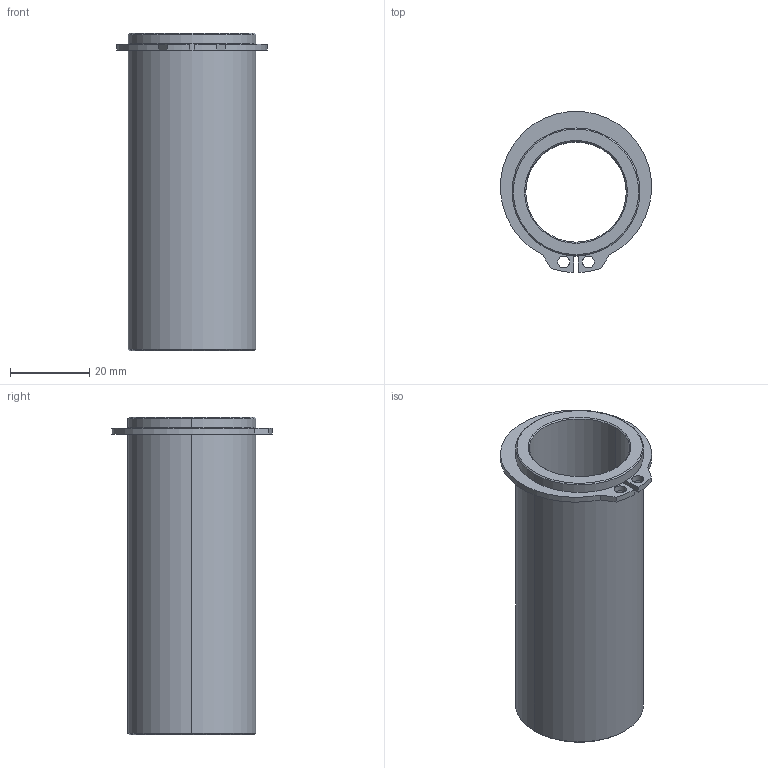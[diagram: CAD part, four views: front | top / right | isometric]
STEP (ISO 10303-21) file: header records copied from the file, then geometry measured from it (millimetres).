
FILE_DESCRIPTION((''),'2;1');
FILE_NAME('C13_025_080.stp','2008-12-17T15:02:02',(''),(''),'Mechanical Desktop 2009','Mechanical Desktop 2009',', , ');
FILE_SCHEMA(('CONFIG_CONTROL_DESIGN'));
Length unit declared in the file: millimetre
Products named in the file (2): Product; blmdl1
Assembly tree (1 placements, depth 2):
  Product
    blmdl1
Bounding box: 38.06 x 40.59 x 80 mm (x, y, z)
Volume: 25469.1 mm3; surface area: 16305.3 mm2
Topology: 2 solids, 2 shells, 34 faces, 76 edges, 48 vertices
Faces by surface type: cylinder 16, plane 10, cone 8
Entity records: 1075 total; most frequent: DIRECTION 188, CARTESIAN_POINT 160, ORIENTED_EDGE 152, AXIS2_PLACEMENT_3D 76, EDGE_CURVE 76, VERTEX_POINT 48, EDGE_LOOP 42, CIRCLE 40
